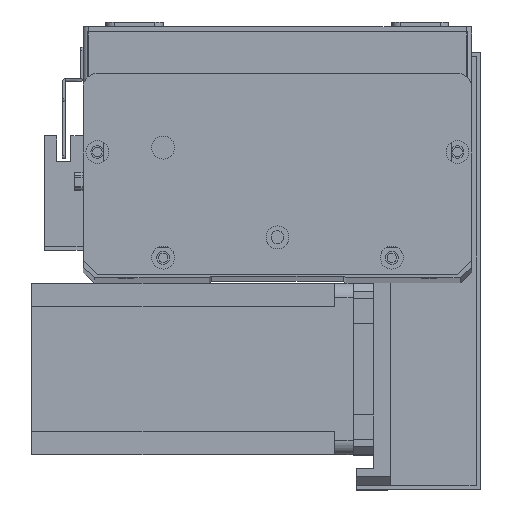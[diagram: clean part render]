
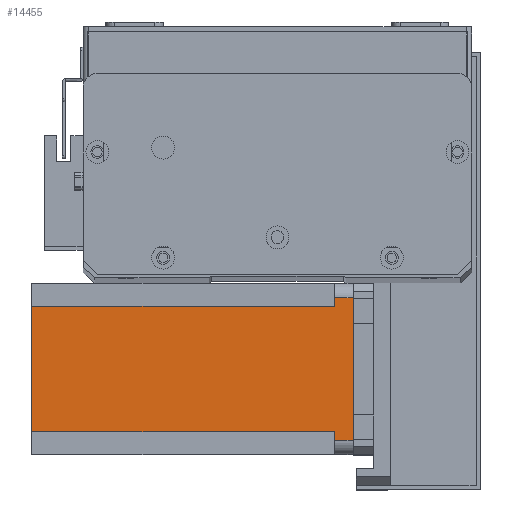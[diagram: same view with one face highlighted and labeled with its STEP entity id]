
A CAD part, top view. The second image highlights one B-rep face of the part: STEP entity #14455.
In plain terms, the highlighted planar face has unit normal (0, 0, 1) as drawn and (0, -1, 0) by its records, which use the part's own axes.
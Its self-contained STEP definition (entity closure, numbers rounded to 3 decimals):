
#31 = VECTOR ( 'NONE', #23867, 1000. ) ;
#967 = ORIENTED_EDGE ( 'NONE', *, *, #2592, .F. ) ;
#1110 = EDGE_CURVE ( 'NONE', #16426, #13462, #21060, .T. ) ;
#1201 = CARTESIAN_POINT ( 'NONE',  ( 52., 0., -6.5 ) ) ;
#2015 = ORIENTED_EDGE ( 'NONE', *, *, #24094, .T. ) ;
#2592 = EDGE_CURVE ( 'NONE', #6799, #13462, #24162, .T. ) ;
#2911 = VECTOR ( 'NONE', #13928, 1000. ) ;
#3215 = VERTEX_POINT ( 'NONE', #16488 ) ;
#3578 = CARTESIAN_POINT ( 'NONE',  ( 8., 0., -112.5 ) ) ;
#3594 = VERTEX_POINT ( 'NONE', #28034 ) ;
#4283 = DIRECTION ( 'NONE',  ( 0., 0., -1. ) ) ;
#4354 = DIRECTION ( 'NONE',  ( 0., -1., 0. ) ) ;
#4538 = VERTEX_POINT ( 'NONE', #9045 ) ;
#5003 = CARTESIAN_POINT ( 'NONE',  ( 8., 0., -6.5 ) ) ;
#5135 = PLANE ( 'NONE',  #20671 ) ;
#5171 = CARTESIAN_POINT ( 'NONE',  ( 0., 0., -112.5 ) ) ;
#6103 = CARTESIAN_POINT ( 'NONE',  ( 52., 0., -112.5 ) ) ;
#6119 = LINE ( 'NONE', #3578, #31 ) ;
#6638 = DIRECTION ( 'NONE',  ( -1., 0., 0. ) ) ;
#6769 = EDGE_LOOP ( 'NONE', ( #13159, #2015, #24180, #9746, #967, #17206, #23160, #24116 ) ) ;
#6799 = VERTEX_POINT ( 'NONE', #5003 ) ;
#7224 = EDGE_CURVE ( 'NONE', #3215, #6799, #6119, .T. ) ;
#8797 = LINE ( 'NONE', #19095, #26012 ) ;
#9045 = CARTESIAN_POINT ( 'NONE',  ( 55., 0., 0. ) ) ;
#9674 = DIRECTION ( 'NONE',  ( 0., 0., -1. ) ) ;
#9746 = ORIENTED_EDGE ( 'NONE', *, *, #1110, .T. ) ;
#10502 = VECTOR ( 'NONE', #9674, 1000. ) ;
#10535 = VECTOR ( 'NONE', #23182, 1000. ) ;
#11202 = LINE ( 'NONE', #26181, #10502 ) ;
#11347 = LINE ( 'NONE', #1201, #15974 ) ;
#11786 = EDGE_CURVE ( 'NONE', #3215, #15470, #16557, .T. ) ;
#11821 = CARTESIAN_POINT ( 'NONE',  ( 5., 0., -6.5 ) ) ;
#12209 = VECTOR ( 'NONE', #6638, 1000. ) ;
#12922 = EDGE_CURVE ( 'NONE', #26291, #15470, #11202, .T. ) ;
#13159 = ORIENTED_EDGE ( 'NONE', *, *, #16594, .T. ) ;
#13462 = VERTEX_POINT ( 'NONE', #11821 ) ;
#13755 = CARTESIAN_POINT ( 'NONE',  ( 5., 0., -112.5 ) ) ;
#13928 = DIRECTION ( 'NONE',  ( 0., 0., -1. ) ) ;
#14455 = ADVANCED_FACE ( 'NONE', ( #27593 ), #5135, .T. ) ;
#14569 = CARTESIAN_POINT ( 'NONE',  ( 52., 0., -6.5 ) ) ;
#15470 = VERTEX_POINT ( 'NONE', #6103 ) ;
#15974 = VECTOR ( 'NONE', #28101, 1000. ) ;
#16052 = CARTESIAN_POINT ( 'NONE',  ( 8., 0., -6.5 ) ) ;
#16426 = VERTEX_POINT ( 'NONE', #20544 ) ;
#16488 = CARTESIAN_POINT ( 'NONE',  ( 8., 0., -112.5 ) ) ;
#16557 = LINE ( 'NONE', #23363, #10535 ) ;
#16594 = EDGE_CURVE ( 'NONE', #26291, #3594, #11347, .T. ) ;
#17206 = ORIENTED_EDGE ( 'NONE', *, *, #7224, .F. ) ;
#17369 = DIRECTION ( 'NONE',  ( 0., 0., 1. ) ) ;
#19095 = CARTESIAN_POINT ( 'NONE',  ( 0., 0., 0. ) ) ;
#19724 = VECTOR ( 'NONE', #17369, 1000. ) ;
#20544 = CARTESIAN_POINT ( 'NONE',  ( 5., 0., 0. ) ) ;
#20671 = AXIS2_PLACEMENT_3D ( 'NONE', #5171, #4354, #4283 ) ;
#21060 = LINE ( 'NONE', #13755, #2911 ) ;
#21468 = DIRECTION ( 'NONE',  ( 1., 0., 0. ) ) ;
#21775 = CARTESIAN_POINT ( 'NONE',  ( 55., 0., -112.5 ) ) ;
#23117 = EDGE_CURVE ( 'NONE', #16426, #4538, #8797, .T. ) ;
#23160 = ORIENTED_EDGE ( 'NONE', *, *, #11786, .T. ) ;
#23182 = DIRECTION ( 'NONE',  ( 1., 0., 0. ) ) ;
#23363 = CARTESIAN_POINT ( 'NONE',  ( 0., 0., -112.5 ) ) ;
#23867 = DIRECTION ( 'NONE',  ( 0., 0., 1. ) ) ;
#24094 = EDGE_CURVE ( 'NONE', #3594, #4538, #25625, .T. ) ;
#24116 = ORIENTED_EDGE ( 'NONE', *, *, #12922, .F. ) ;
#24162 = LINE ( 'NONE', #16052, #12209 ) ;
#24180 = ORIENTED_EDGE ( 'NONE', *, *, #23117, .F. ) ;
#25625 = LINE ( 'NONE', #21775, #19724 ) ;
#26012 = VECTOR ( 'NONE', #21468, 1000. ) ;
#26181 = CARTESIAN_POINT ( 'NONE',  ( 52., 0., -112.5 ) ) ;
#26291 = VERTEX_POINT ( 'NONE', #14569 ) ;
#27593 = FACE_OUTER_BOUND ( 'NONE', #6769, .T. ) ;
#28034 = CARTESIAN_POINT ( 'NONE',  ( 55., 0., -6.5 ) ) ;
#28101 = DIRECTION ( 'NONE',  ( 1., 0., 0. ) ) ;
